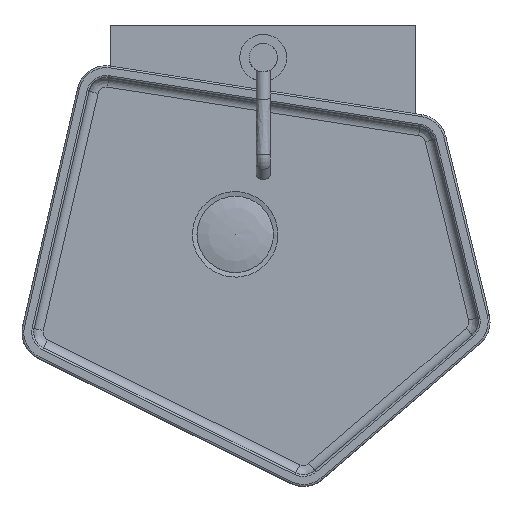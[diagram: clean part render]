
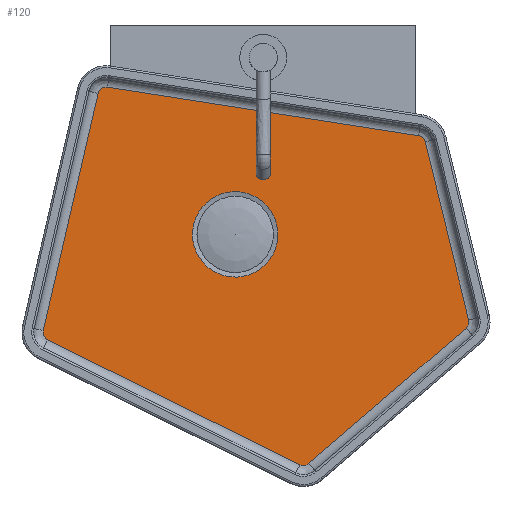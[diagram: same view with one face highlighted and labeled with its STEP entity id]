
A CAD part, top view. The second image highlights one B-rep face of the part: STEP entity #120.
In plain terms, the highlighted planar face has unit normal (0, 0, 1).
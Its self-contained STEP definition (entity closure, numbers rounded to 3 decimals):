
#23=FACE_BOUND('',#292,.T.);
#43=PLANE('',#1364);
#120=ADVANCED_FACE('',(#204,#23),#43,.T.);
#204=FACE_OUTER_BOUND('',#291,.T.);
#291=EDGE_LOOP('',(#607,#608,#609,#610,#611,#612,#613,#614,#615,#616));
#292=EDGE_LOOP('',(#617));
#607=ORIENTED_EDGE('',*,*,#838,.T.);
#608=ORIENTED_EDGE('',*,*,#841,.T.);
#609=ORIENTED_EDGE('',*,*,#842,.T.);
#610=ORIENTED_EDGE('',*,*,#808,.T.);
#611=ORIENTED_EDGE('',*,*,#822,.T.);
#612=ORIENTED_EDGE('',*,*,#826,.T.);
#613=ORIENTED_EDGE('',*,*,#827,.T.);
#614=ORIENTED_EDGE('',*,*,#831,.T.);
#615=ORIENTED_EDGE('',*,*,#834,.T.);
#616=ORIENTED_EDGE('',*,*,#836,.T.);
#617=ORIENTED_EDGE('',*,*,#848,.F.);
#808=EDGE_CURVE('',#1138,#1139,#1032,.T.);
#822=EDGE_CURVE('',#1139,#1134,#982,.T.);
#826=EDGE_CURVE('',#1134,#1135,#986,.T.);
#827=EDGE_CURVE('',#1135,#1141,#987,.T.);
#831=EDGE_CURVE('',#1141,#1136,#991,.T.);
#834=EDGE_CURVE('',#1136,#1137,#994,.T.);
#836=EDGE_CURVE('',#1137,#1132,#996,.T.);
#838=EDGE_CURVE('',#1132,#1133,#998,.T.);
#841=EDGE_CURVE('',#1133,#1140,#1001,.T.);
#842=EDGE_CURVE('',#1140,#1138,#1002,.T.);
#848=EDGE_CURVE('',#1151,#1151,#1008,.T.);
#982=(
BOUNDED_CURVE()
B_SPLINE_CURVE(2,(#2791,#2792,#2793),.UNSPECIFIED.,.F.,.F.)
B_SPLINE_CURVE_WITH_KNOTS((3,3),(0.,1.306),
 .UNSPECIFIED.)
CURVE()
GEOMETRIC_REPRESENTATION_ITEM()
RATIONAL_B_SPLINE_CURVE((1.,0.732,1.))
REPRESENTATION_ITEM('')
);
#986=(
BOUNDED_CURVE()
B_SPLINE_CURVE(1,(#2802,#2803),.UNSPECIFIED.,.F.,.F.)
B_SPLINE_CURVE_WITH_KNOTS((2,2),(0.,25.945),
 .UNSPECIFIED.)
CURVE()
GEOMETRIC_REPRESENTATION_ITEM()
RATIONAL_B_SPLINE_CURVE((1.,1.))
REPRESENTATION_ITEM('')
);
#987=(
BOUNDED_CURVE()
B_SPLINE_CURVE(2,(#2804,#2805,#2806),.UNSPECIFIED.,.F.,.F.)
B_SPLINE_CURVE_WITH_KNOTS((3,3),(0.,1.167),.UNSPECIFIED.)
CURVE()
GEOMETRIC_REPRESENTATION_ITEM()
RATIONAL_B_SPLINE_CURVE((1.,0.784,1.))
REPRESENTATION_ITEM('')
);
#991=(
BOUNDED_CURVE()
B_SPLINE_CURVE(1,(#2815,#2816),.UNSPECIFIED.,.F.,.F.)
B_SPLINE_CURVE_WITH_KNOTS((2,2),(0.,29.983),
 .UNSPECIFIED.)
CURVE()
GEOMETRIC_REPRESENTATION_ITEM()
RATIONAL_B_SPLINE_CURVE((1.,1.))
REPRESENTATION_ITEM('')
);
#994=(
BOUNDED_CURVE()
B_SPLINE_CURVE(2,(#2823,#2824,#2825),.UNSPECIFIED.,.F.,.F.)
B_SPLINE_CURVE_WITH_KNOTS((3,3),(0.,1.02),.UNSPECIFIED.)
CURVE()
GEOMETRIC_REPRESENTATION_ITEM()
RATIONAL_B_SPLINE_CURVE((1.,0.834,1.))
REPRESENTATION_ITEM('')
);
#996=(
BOUNDED_CURVE()
B_SPLINE_CURVE(1,(#2828,#2829),.UNSPECIFIED.,.F.,.F.)
B_SPLINE_CURVE_WITH_KNOTS((2,2),(0.,22.104),
 .UNSPECIFIED.)
CURVE()
GEOMETRIC_REPRESENTATION_ITEM()
RATIONAL_B_SPLINE_CURVE((1.,1.))
REPRESENTATION_ITEM('')
);
#998=(
BOUNDED_CURVE()
B_SPLINE_CURVE(2,(#2833,#2834,#2835),.UNSPECIFIED.,.F.,.F.)
B_SPLINE_CURVE_WITH_KNOTS((3,3),(0.,0.958),
 .UNSPECIFIED.)
CURVE()
GEOMETRIC_REPRESENTATION_ITEM()
RATIONAL_B_SPLINE_CURVE((1.,0.853,1.))
REPRESENTATION_ITEM('')
);
#1001=(
BOUNDED_CURVE()
B_SPLINE_CURVE(1,(#2841,#2842),.UNSPECIFIED.,.F.,.F.)
B_SPLINE_CURVE_WITH_KNOTS((2,2),(0.,19.537),
 .UNSPECIFIED.)
CURVE()
GEOMETRIC_REPRESENTATION_ITEM()
RATIONAL_B_SPLINE_CURVE((1.,1.))
REPRESENTATION_ITEM('')
);
#1002=(
BOUNDED_CURVE()
B_SPLINE_CURVE(2,(#2843,#2844,#2845),.UNSPECIFIED.,.F.,.F.)
B_SPLINE_CURVE_WITH_KNOTS((3,3),(0.,1.026),
 .UNSPECIFIED.)
CURVE()
GEOMETRIC_REPRESENTATION_ITEM()
RATIONAL_B_SPLINE_CURVE((1.,0.832,1.))
REPRESENTATION_ITEM('')
);
#1008=(
BOUNDED_CURVE()
B_SPLINE_CURVE(2,(#2866,#2867,#2868,#2869,#2870,#2871,#2872,#2873,#2874),
 .UNSPECIFIED.,.T.,.F.)
B_SPLINE_CURVE_WITH_KNOTS((3,2,2,2,3),(0.,7.148,14.295,
21.443,28.59),.UNSPECIFIED.)
CURVE()
GEOMETRIC_REPRESENTATION_ITEM()
RATIONAL_B_SPLINE_CURVE((1.,0.707,1.,0.707,1.,0.707,
1.,0.707,1.))
REPRESENTATION_ITEM('')
);
#1032=B_SPLINE_CURVE_WITH_KNOTS('',1,(#2758,#2759),.UNSPECIFIED.,.F.,.F.,
(2,2),(0.,33.557),.UNSPECIFIED.);
#1132=VERTEX_POINT('',#2424);
#1133=VERTEX_POINT('',#2425);
#1134=VERTEX_POINT('',#2426);
#1135=VERTEX_POINT('',#2427);
#1136=VERTEX_POINT('',#2428);
#1137=VERTEX_POINT('',#2429);
#1138=VERTEX_POINT('',#2430);
#1139=VERTEX_POINT('',#2431);
#1140=VERTEX_POINT('',#2432);
#1141=VERTEX_POINT('',#2433);
#1151=VERTEX_POINT('',#2443);
#1364=AXIS2_PLACEMENT_3D('',#2282,#1425,$);
#1425=DIRECTION('',(0.,0.,1.));
#2282=CARTESIAN_POINT('',(1080.924,-11866.362,430.));
#2424=CARTESIAN_POINT('',(1044.402,-12057.79,430.));
#2425=CARTESIAN_POINT('',(1047.186,-12049.117,430.));
#2426=CARTESIAN_POINT('',(652.415,-11807.629,430.));
#2427=CARTESIAN_POINT('',(593.92,-12060.402,430.));
#2428=CARTESIAN_POINT('',(867.283,-12203.149,430.));
#2429=CARTESIAN_POINT('',(876.834,-12201.944,430.));
#2430=CARTESIAN_POINT('',(993.805,-11852.758,430.));
#2431=CARTESIAN_POINT('',(662.253,-11800.982,430.));
#2432=CARTESIAN_POINT('',(1000.929,-11859.306,430.));
#2433=CARTESIAN_POINT('',(598.547,-12070.18,430.));
#2443=CARTESIAN_POINT('',(843.867,-11957.862,430.));
#2758=CARTESIAN_POINT('',(993.805,-11852.758,430.));
#2759=CARTESIAN_POINT('',(662.253,-11800.982,430.));
#2791=CARTESIAN_POINT('',(662.253,-11800.982,430.));
#2792=CARTESIAN_POINT('',(654.243,-11799.731,430.));
#2793=CARTESIAN_POINT('',(652.415,-11807.629,430.));
#2802=CARTESIAN_POINT('',(652.415,-11807.629,430.));
#2803=CARTESIAN_POINT('',(593.92,-12060.402,430.));
#2804=CARTESIAN_POINT('',(593.92,-12060.402,430.));
#2805=CARTESIAN_POINT('',(592.365,-12067.121,430.));
#2806=CARTESIAN_POINT('',(598.547,-12070.18,430.));
#2815=CARTESIAN_POINT('',(598.547,-12070.18,430.));
#2816=CARTESIAN_POINT('',(867.283,-12203.149,430.));
#2823=CARTESIAN_POINT('',(867.283,-12203.149,430.));
#2824=CARTESIAN_POINT('',(872.457,-12205.709,430.));
#2825=CARTESIAN_POINT('',(876.834,-12201.944,430.));
#2828=CARTESIAN_POINT('',(876.834,-12201.944,430.));
#2829=CARTESIAN_POINT('',(1044.402,-12057.79,430.));
#2833=CARTESIAN_POINT('',(1044.402,-12057.79,430.));
#2834=CARTESIAN_POINT('',(1048.451,-12054.306,430.));
#2835=CARTESIAN_POINT('',(1047.186,-12049.117,430.));
#2841=CARTESIAN_POINT('',(1047.186,-12049.117,430.));
#2842=CARTESIAN_POINT('',(1000.929,-11859.306,430.));
#2843=CARTESIAN_POINT('',(1000.929,-11859.306,430.));
#2844=CARTESIAN_POINT('',(999.552,-11853.655,430.));
#2845=CARTESIAN_POINT('',(993.805,-11852.758,430.));
#2866=CARTESIAN_POINT('',(843.867,-11957.862,430.));
#2867=CARTESIAN_POINT('',(843.867,-11912.358,430.));
#2868=CARTESIAN_POINT('',(798.363,-11912.358,430.));
#2869=CARTESIAN_POINT('',(752.86,-11912.358,430.));
#2870=CARTESIAN_POINT('',(752.86,-11957.862,430.));
#2871=CARTESIAN_POINT('',(752.86,-12003.366,430.));
#2872=CARTESIAN_POINT('',(798.363,-12003.366,430.));
#2873=CARTESIAN_POINT('',(843.867,-12003.366,430.));
#2874=CARTESIAN_POINT('',(843.867,-11957.862,430.));
